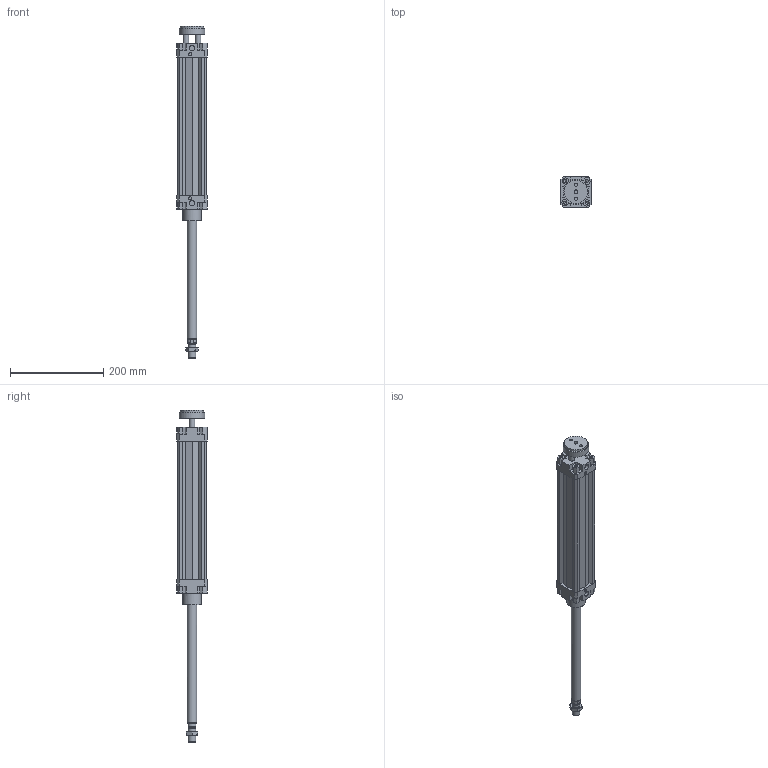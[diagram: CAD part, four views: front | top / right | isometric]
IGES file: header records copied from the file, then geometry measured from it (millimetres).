
Global section: file name: 132#_050_0250_02; native system: Autodesk Inventor 2014; preprocessor: unknown; author: A. Manieri; date: 20161006.155754; units: millimetre
Bounding box: 65 x 65 x 712 mm (x, y, z)
Volume: 847025 mm3; surface area: 234398.7 mm2
Topology: 3 solids, 3 shells, 220 faces, 590 edges, 398 vertices
Faces by surface type: bspline 220
